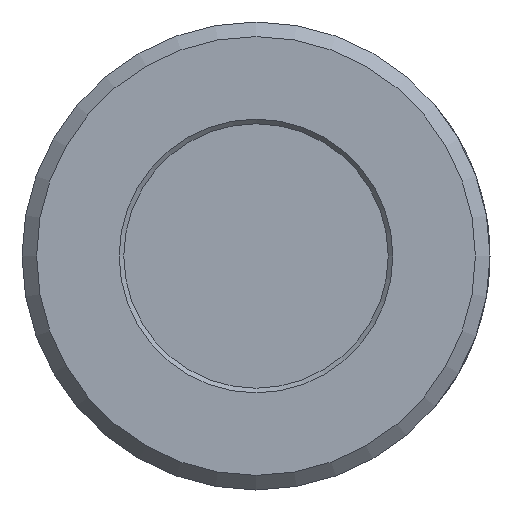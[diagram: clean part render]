
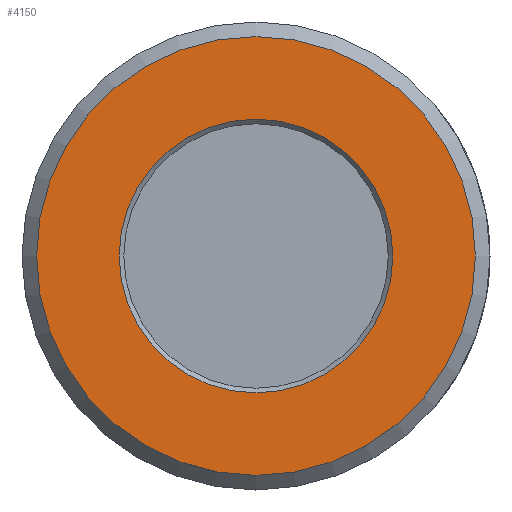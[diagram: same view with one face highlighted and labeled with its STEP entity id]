
A CAD part, left-side view. The second image highlights one B-rep face of the part: STEP entity #4150.
In plain terms, the highlighted planar face has unit normal (-1, 0, 0).
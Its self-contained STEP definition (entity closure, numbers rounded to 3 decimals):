
#75=PLANE('',#4345);
#183=CIRCLE('',#4344,11.906);
#184=CIRCLE('',#4346,7.43);
#326=ORIENTED_EDGE('',*,*,#1263,.T.);
#327=ORIENTED_EDGE('',*,*,#1262,.T.);
#1262=EDGE_CURVE('',#1731,#1731,#183,.T.);
#1263=EDGE_CURVE('',#1732,#1732,#184,.T.);
#1731=VERTEX_POINT('',#5709);
#1732=VERTEX_POINT('',#5712);
#2395=EDGE_LOOP('',(#326));
#2396=EDGE_LOOP('',(#327));
#2614=FACE_BOUND('',#2395,.T.);
#2615=FACE_BOUND('',#2396,.T.);
#4150=ADVANCED_FACE('',(#2614,#2615),#75,.F.);
#4344=AXIS2_PLACEMENT_3D('',#5708,#4492,#4493);
#4345=AXIS2_PLACEMENT_3D('',#5710,#4494,#4495);
#4346=AXIS2_PLACEMENT_3D('',#5711,#4496,#4497);
#4492=DIRECTION('',(-1.,0.,0.));
#4493=DIRECTION('',(0.,0.,1.));
#4494=DIRECTION('',(1.,0.,0.));
#4495=DIRECTION('',(0.,0.,-1.));
#4496=DIRECTION('',(1.,0.,0.));
#4497=DIRECTION('',(0.,0.,-1.));
#5708=CARTESIAN_POINT('',(0.,0.,0.));
#5709=CARTESIAN_POINT('',(0.,0.,11.906));
#5710=CARTESIAN_POINT('',(0.,0.,11.906));
#5711=CARTESIAN_POINT('',(0.,0.,0.));
#5712=CARTESIAN_POINT('',(0.,0.,-7.43));
